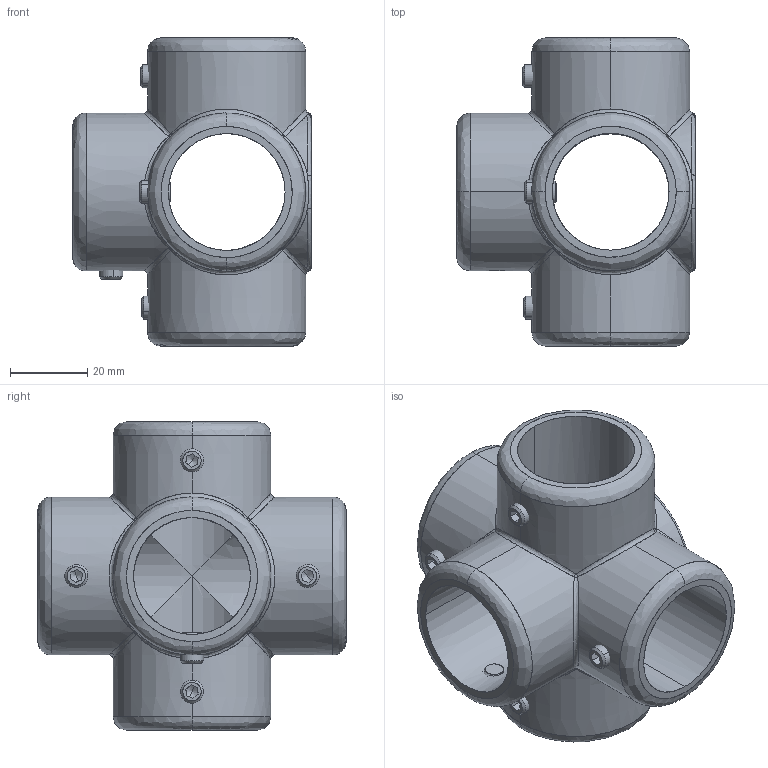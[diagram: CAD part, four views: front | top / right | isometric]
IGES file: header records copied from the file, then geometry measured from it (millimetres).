
Start section: SolidWorks IGES file using analytic representation for surfaces
Global section: file name: C:\Users\Gerard\OneDrive - Tecnodin, S.L\Escritorio\30 mm Verbinder im step. Format\31000410022.IGS; native system: SolidWorks 2016; preprocessor: SolidWorks 2016; author: Gerard; date: 240902.114118; units: millimetre
Bounding box: 62 x 80 x 80 mm (x, y, z)
Surface area: 32170.3 mm2 (no closed solid volume)
Topology: 0 solids, 0 shells, 158 faces, 2603 edges, 2593 vertices
Faces by surface type: bspline 84, revolution 74
